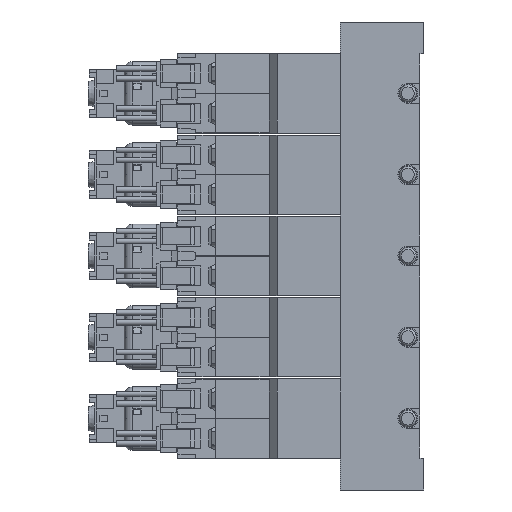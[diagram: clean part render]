
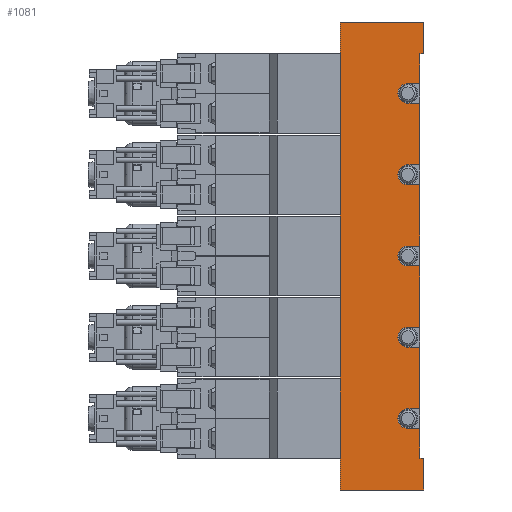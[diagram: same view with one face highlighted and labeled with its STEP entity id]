
A CAD part, left-side view. The second image highlights one B-rep face of the part: STEP entity #1081.
In plain terms, the highlighted planar face has unit normal (-1, 0, 0) as drawn and (1, 0, 0) by its records, which use the part's own axes.
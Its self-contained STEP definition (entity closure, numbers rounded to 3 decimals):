
#1081=ADVANCED_FACE('',(#4072),#4073,.F.);
#4072=FACE_OUTER_BOUND('',#9763,.T.);
#4073=PLANE('',#9764);
#9763=EDGE_LOOP('',(#17892,#17893,#17894,#17895,#17896,#17897,#17898,#17899,#17900,#17901,#17902,#17903,#17904,#17905,#17906,#17907,#17908,#17909,#17910,#17911,#17912,#17913,#17914,#17915,#17916,#17917,#17918,#17919));
#9764=AXIS2_PLACEMENT_3D('',#17920,#17921,#17922);
#17892=ORIENTED_EDGE('',*,*,#35111,.T.);
#17893=ORIENTED_EDGE('',*,*,#35217,.T.);
#17894=ORIENTED_EDGE('',*,*,#35157,.F.);
#17895=ORIENTED_EDGE('',*,*,#35082,.F.);
#17896=ORIENTED_EDGE('',*,*,#35226,.T.);
#17897=ORIENTED_EDGE('',*,*,#35227,.T.);
#17898=ORIENTED_EDGE('',*,*,#35196,.T.);
#17899=ORIENTED_EDGE('',*,*,#35166,.F.);
#17900=ORIENTED_EDGE('',*,*,#35143,.F.);
#17901=ORIENTED_EDGE('',*,*,#35106,.F.);
#17902=ORIENTED_EDGE('',*,*,#35195,.T.);
#17903=ORIENTED_EDGE('',*,*,#35094,.F.);
#17904=ORIENTED_EDGE('',*,*,#35126,.F.);
#17905=ORIENTED_EDGE('',*,*,#35228,.F.);
#17906=ORIENTED_EDGE('',*,*,#35193,.T.);
#17907=ORIENTED_EDGE('',*,*,#35229,.F.);
#17908=ORIENTED_EDGE('',*,*,#35230,.F.);
#17909=ORIENTED_EDGE('',*,*,#35231,.F.);
#17910=ORIENTED_EDGE('',*,*,#35190,.T.);
#17911=ORIENTED_EDGE('',*,*,#35232,.F.);
#17912=ORIENTED_EDGE('',*,*,#35214,.F.);
#17913=ORIENTED_EDGE('',*,*,#35233,.F.);
#17914=ORIENTED_EDGE('',*,*,#35186,.T.);
#17915=ORIENTED_EDGE('',*,*,#35202,.F.);
#17916=ORIENTED_EDGE('',*,*,#35076,.F.);
#17917=ORIENTED_EDGE('',*,*,#35224,.F.);
#17918=ORIENTED_EDGE('',*,*,#35183,.T.);
#17919=ORIENTED_EDGE('',*,*,#35151,.T.);
#17920=CARTESIAN_POINT('',(17.5,1.0,59.0));
#17921=DIRECTION('',(-1.0,0.0,0.0));
#17922=DIRECTION('',(0.0,0.0,1.0));
#35076=EDGE_CURVE('',#42522,#42524,#42525,.T.);
#35082=EDGE_CURVE('',#42534,#42536,#42537,.T.);
#35094=EDGE_CURVE('',#42555,#42556,#42557,.T.);
#35106=EDGE_CURVE('',#42578,#42579,#42580,.T.);
#35111=EDGE_CURVE('',#42588,#42589,#42590,.T.);
#35126=EDGE_CURVE('',#42614,#42555,#42616,.T.);
#35143=EDGE_CURVE('',#42579,#42647,#42648,.T.);
#35151=EDGE_CURVE('',#42654,#42588,#42662,.T.);
#35157=EDGE_CURVE('',#42536,#42668,#42672,.T.);
#35166=EDGE_CURVE('',#42647,#42688,#42689,.T.);
#35183=EDGE_CURVE('',#42719,#42654,#42720,.T.);
#35186=EDGE_CURVE('',#42724,#42722,#42725,.T.);
#35190=EDGE_CURVE('',#42732,#42730,#42733,.T.);
#35193=EDGE_CURVE('',#42737,#42735,#42738,.T.);
#35195=EDGE_CURVE('',#42578,#42556,#42740,.T.);
#35196=EDGE_CURVE('',#42741,#42688,#42742,.T.);
#35202=EDGE_CURVE('',#42524,#42722,#42750,.T.);
#35214=EDGE_CURVE('',#42766,#42768,#42769,.T.);
#35217=EDGE_CURVE('',#42589,#42668,#42773,.T.);
#35224=EDGE_CURVE('',#42719,#42522,#42784,.T.);
#35226=EDGE_CURVE('',#42534,#42786,#42787,.T.);
#35227=EDGE_CURVE('',#42786,#42741,#42788,.T.);
#35228=EDGE_CURVE('',#42737,#42614,#42789,.T.);
#35229=EDGE_CURVE('',#42790,#42735,#42791,.T.);
#35230=EDGE_CURVE('',#42792,#42790,#42793,.T.);
#35231=EDGE_CURVE('',#42732,#42792,#42794,.T.);
#35232=EDGE_CURVE('',#42768,#42730,#42795,.T.);
#35233=EDGE_CURVE('',#42724,#42766,#42796,.T.);
#42522=VERTEX_POINT('',#53714);
#42524=VERTEX_POINT('',#53717);
#42525=CIRCLE('',#53718,2.5);
#42534=VERTEX_POINT('',#53731);
#42536=VERTEX_POINT('',#53734);
#42537=LINE('',#53735,#53736);
#42555=VERTEX_POINT('',#53755);
#42556=VERTEX_POINT('',#53756);
#42557=LINE('',#53757,#53758);
#42578=VERTEX_POINT('',#53785);
#42579=VERTEX_POINT('',#53786);
#42580=LINE('',#53787,#53788);
#42588=VERTEX_POINT('',#53800);
#42589=VERTEX_POINT('',#53801);
#42590=LINE('',#53802,#53803);
#42614=VERTEX_POINT('',#53830);
#42616=CIRCLE('',#53833,2.5);
#42647=VERTEX_POINT('',#53871);
#42648=CIRCLE('',#53872,2.5);
#42654=VERTEX_POINT('',#53879);
#42662=LINE('',#53891,#53892);
#42668=VERTEX_POINT('',#53901);
#42672=LINE('',#53907,#53908);
#42688=VERTEX_POINT('',#53926);
#42689=LINE('',#53927,#53928);
#42719=VERTEX_POINT('',#54138);
#42720=LINE('',#54139,#54140);
#42722=VERTEX_POINT('',#54143);
#42724=VERTEX_POINT('',#54146);
#42725=LINE('',#54147,#54148);
#42730=VERTEX_POINT('',#54155);
#42732=VERTEX_POINT('',#54158);
#42733=LINE('',#54159,#54160);
#42735=VERTEX_POINT('',#54163);
#42737=VERTEX_POINT('',#54166);
#42738=LINE('',#54167,#54168);
#42740=LINE('',#54171,#54172);
#42741=VERTEX_POINT('',#54173);
#42742=LINE('',#54174,#54175);
#42750=LINE('',#54185,#54186);
#42766=VERTEX_POINT('',#54207);
#42768=VERTEX_POINT('',#54210);
#42769=CIRCLE('',#54211,2.5);
#42773=LINE('',#54216,#54217);
#42784=LINE('',#54231,#54232);
#42786=VERTEX_POINT('',#54235);
#42787=LINE('',#54236,#54237);
#42788=LINE('',#54238,#54239);
#42789=LINE('',#54240,#54241);
#42790=VERTEX_POINT('',#54242);
#42791=LINE('',#54243,#54244);
#42792=VERTEX_POINT('',#54245);
#42793=CIRCLE('',#54246,2.5);
#42794=LINE('',#54247,#54248);
#42795=LINE('',#54249,#54250);
#42796=LINE('',#54251,#54252);
#53714=CARTESIAN_POINT('',(17.5,4.0,-43.5));
#53717=CARTESIAN_POINT('',(17.5,4.0,-38.5));
#53718=AXIS2_PLACEMENT_3D('',#68396,#68397,#68398);
#53731=CARTESIAN_POINT('',(17.5,0.0,59.0));
#53734=CARTESIAN_POINT('',(17.5,21.0,59.0));
#53735=CARTESIAN_POINT('',(17.5,1.0,59.0));
#53736=VECTOR('',#68404,1.0);
#53755=CARTESIAN_POINT('',(17.5,4.0,23.0));
#53756=CARTESIAN_POINT('',(17.5,1.0,23.0));
#53757=CARTESIAN_POINT('',(17.5,1.0,23.0));
#53758=VECTOR('',#68430,1.0);
#53785=CARTESIAN_POINT('',(17.5,1.0,38.5));
#53786=CARTESIAN_POINT('',(17.5,4.0,38.5));
#53787=CARTESIAN_POINT('',(17.5,1.0,38.5));
#53788=VECTOR('',#68452,1.0);
#53800=CARTESIAN_POINT('',(17.5,0.0,-51.0));
#53801=CARTESIAN_POINT('',(17.5,0.0,-59.0));
#53802=CARTESIAN_POINT('',(17.5,0.0,-51.0));
#53803=VECTOR('',#68457,1.0);
#53830=CARTESIAN_POINT('',(17.5,4.0,18.0));
#53833=AXIS2_PLACEMENT_3D('',#68489,#68490,#68491);
#53871=CARTESIAN_POINT('',(17.5,4.0,43.5));
#53872=AXIS2_PLACEMENT_3D('',#68526,#68527,#68528);
#53879=CARTESIAN_POINT('',(17.5,1.0,-51.0));
#53891=CARTESIAN_POINT('',(17.5,4.0,-51.0));
#53892=VECTOR('',#68540,1.0);
#53901=CARTESIAN_POINT('',(17.5,21.0,-59.0));
#53907=CARTESIAN_POINT('',(17.5,21.0,59.0));
#53908=VECTOR('',#68546,1.0);
#53926=CARTESIAN_POINT('',(17.5,1.0,43.5));
#53927=CARTESIAN_POINT('',(17.5,1.0,43.5));
#53928=VECTOR('',#68567,1.0);
#54138=CARTESIAN_POINT('',(17.5,1.0,-43.5));
#54139=CARTESIAN_POINT('',(17.5,1.0,59.0));
#54140=VECTOR('',#68596,1.0);
#54143=CARTESIAN_POINT('',(17.5,1.0,-38.5));
#54146=CARTESIAN_POINT('',(17.5,1.0,-23.0));
#54147=CARTESIAN_POINT('',(17.5,1.0,59.0));
#54148=VECTOR('',#68599,1.0);
#54155=CARTESIAN_POINT('',(17.5,1.0,-18.0));
#54158=CARTESIAN_POINT('',(17.5,1.0,-2.5));
#54159=CARTESIAN_POINT('',(17.5,1.0,59.0));
#54160=VECTOR('',#68603,1.0);
#54163=CARTESIAN_POINT('',(17.5,1.0,2.5));
#54166=CARTESIAN_POINT('',(17.5,1.0,18.0));
#54167=CARTESIAN_POINT('',(17.5,1.0,59.0));
#54168=VECTOR('',#68606,1.0);
#54171=CARTESIAN_POINT('',(17.5,1.0,59.0));
#54172=VECTOR('',#68608,1.0);
#54173=CARTESIAN_POINT('',(17.5,1.0,51.0));
#54174=CARTESIAN_POINT('',(17.5,1.0,59.0));
#54175=VECTOR('',#68609,1.0);
#54185=CARTESIAN_POINT('',(17.5,1.0,-38.5));
#54186=VECTOR('',#68618,1.0);
#54207=CARTESIAN_POINT('',(17.5,4.0,-23.0));
#54210=CARTESIAN_POINT('',(17.5,4.0,-18.0));
#54211=AXIS2_PLACEMENT_3D('',#68637,#68638,#68639);
#54216=CARTESIAN_POINT('',(17.5,1.0,-59.0));
#54217=VECTOR('',#68644,1.0);
#54231=CARTESIAN_POINT('',(17.5,1.0,-43.5));
#54232=VECTOR('',#68657,1.0);
#54235=CARTESIAN_POINT('',(17.5,0.0,51.0));
#54236=CARTESIAN_POINT('',(17.5,0.0,59.0));
#54237=VECTOR('',#68659,1.0);
#54238=CARTESIAN_POINT('',(17.5,0.0,51.0));
#54239=VECTOR('',#68660,1.0);
#54240=CARTESIAN_POINT('',(17.5,1.0,18.0));
#54241=VECTOR('',#68661,1.0);
#54242=CARTESIAN_POINT('',(17.5,4.0,2.5));
#54243=CARTESIAN_POINT('',(17.5,1.0,2.5));
#54244=VECTOR('',#68662,1.0);
#54245=CARTESIAN_POINT('',(17.5,4.0,-2.5));
#54246=AXIS2_PLACEMENT_3D('',#68663,#68664,#68665);
#54247=CARTESIAN_POINT('',(17.5,1.0,-2.5));
#54248=VECTOR('',#68666,1.0);
#54249=CARTESIAN_POINT('',(17.5,1.0,-18.0));
#54250=VECTOR('',#68667,1.0);
#54251=CARTESIAN_POINT('',(17.5,1.0,-23.0));
#54252=VECTOR('',#68668,1.0);
#68396=CARTESIAN_POINT('',(17.5,4.0,-41.0));
#68397=DIRECTION('',(1.0,0.0,-0.0));
#68398=DIRECTION('',(0.0,0.0,1.0));
#68404=DIRECTION('',(0.0,1.0,0.0));
#68430=DIRECTION('',(0.0,-1.0,0.0));
#68452=DIRECTION('',(0.0,1.0,0.0));
#68457=DIRECTION('',(0.0,0.0,-1.0));
#68489=CARTESIAN_POINT('',(17.5,4.0,20.5));
#68490=DIRECTION('',(1.0,0.0,-0.0));
#68491=DIRECTION('',(0.0,0.0,1.0));
#68526=CARTESIAN_POINT('',(17.5,4.0,41.0));
#68527=DIRECTION('',(1.0,0.0,-0.0));
#68528=DIRECTION('',(0.0,0.0,1.0));
#68540=DIRECTION('',(0.0,-1.0,0.0));
#68546=DIRECTION('',(0.0,0.0,-1.0));
#68567=DIRECTION('',(0.0,-1.0,0.0));
#68596=DIRECTION('',(0.0,0.0,-1.0));
#68599=DIRECTION('',(0.0,0.0,-1.0));
#68603=DIRECTION('',(0.0,0.0,-1.0));
#68606=DIRECTION('',(0.0,0.0,-1.0));
#68608=DIRECTION('',(0.0,0.0,-1.0));
#68609=DIRECTION('',(0.0,0.0,-1.0));
#68618=DIRECTION('',(0.0,-1.0,0.0));
#68637=CARTESIAN_POINT('',(17.5,4.0,-20.5));
#68638=DIRECTION('',(1.0,0.0,-0.0));
#68639=DIRECTION('',(0.0,0.0,1.0));
#68644=DIRECTION('',(0.0,1.0,0.0));
#68657=DIRECTION('',(0.0,1.0,0.0));
#68659=DIRECTION('',(0.0,0.0,-1.0));
#68660=DIRECTION('',(0.0,1.0,0.0));
#68661=DIRECTION('',(0.0,1.0,0.0));
#68662=DIRECTION('',(0.0,-1.0,0.0));
#68663=CARTESIAN_POINT('',(17.5,4.0,0.0));
#68664=DIRECTION('',(1.0,0.0,-0.0));
#68665=DIRECTION('',(0.0,0.0,1.0));
#68666=DIRECTION('',(0.0,1.0,0.0));
#68667=DIRECTION('',(0.0,-1.0,0.0));
#68668=DIRECTION('',(0.0,1.0,0.0));
